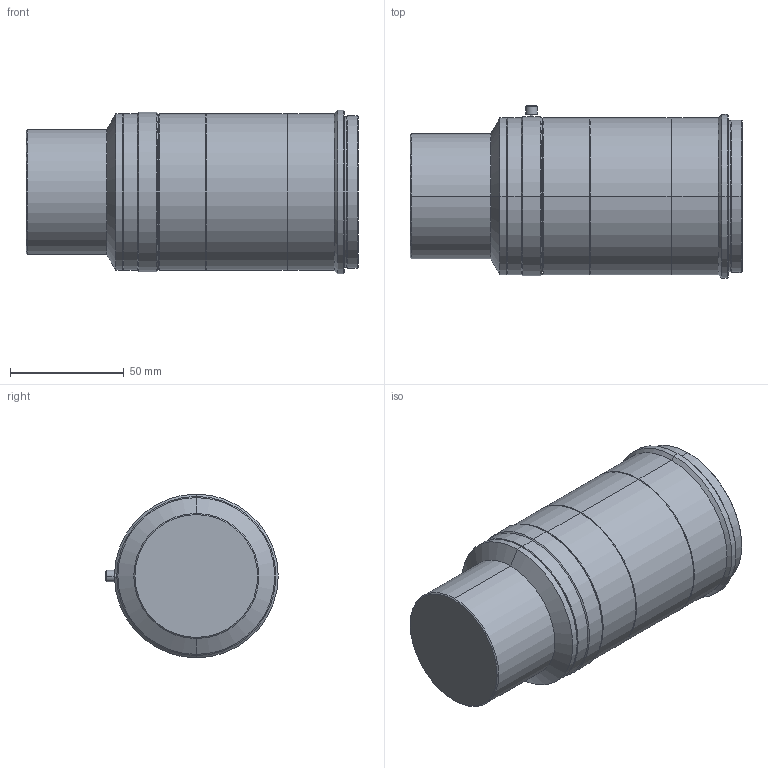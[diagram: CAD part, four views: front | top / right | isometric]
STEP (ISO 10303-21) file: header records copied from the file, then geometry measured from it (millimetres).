
FILE_DESCRIPTION (( 'STEP AP203' ), '1' );
FILE_NAME ('VS-L12025-5_M67S.STEP', '2020-08-05T02:30:11', ( '' ), ( '' ), 'SwSTEP 2.0', 'SolidWorks 2020', '' );
FILE_SCHEMA (( 'CONFIG_CONTROL_DESIGN' ));
Length unit declared in the file: millimetre
Products named in the file (1): VS-L12025-5_M67S
Bounding box: 146 x 75.8 x 72 mm (x, y, z)
Volume: 495305 mm3; surface area: 38717.1 mm2
Topology: 1 solids, 1 shells, 77 faces, 152 edges, 84 vertices
Faces by surface type: cone 40, cylinder 28, plane 9
Entity records: 2057 total; most frequent: DIRECTION 388, CARTESIAN_POINT 346, ORIENTED_EDGE 304, AXIS2_PLACEMENT_3D 160, EDGE_CURVE 152, EDGE_LOOP 84, VERTEX_POINT 84, CIRCLE 82
